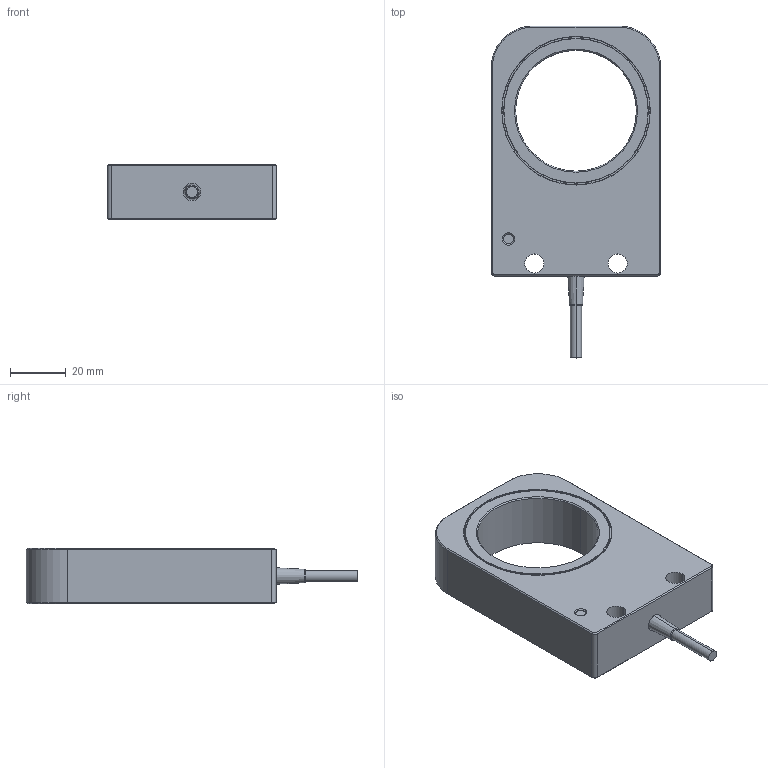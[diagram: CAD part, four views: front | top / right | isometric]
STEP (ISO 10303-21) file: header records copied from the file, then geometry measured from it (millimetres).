
FILE_DESCRIPTION (( 'STEP AP203' ), '1' );
FILE_NAME ('TH43.STEP', '2016-06-30T08:09:49', ( '' ), ( '' ), 'SwSTEP 2.0', 'SolidWorks 2013', '' );
FILE_SCHEMA (( 'CONFIG_CONTROL_DESIGN' ));
Length unit declared in the file: millimetre
Products named in the file (1): TH43
Bounding box: 61 x 119.5 x 20 mm (x, y, z)
Volume: 76967.1 mm3; surface area: 17781.3 mm2
Topology: 2 solids, 2 shells, 86 faces, 182 edges, 112 vertices
Faces by surface type: cylinder 32, plane 30, cone 22, torus 2
Entity records: 2403 total; most frequent: DIRECTION 450, CARTESIAN_POINT 381, ORIENTED_EDGE 364, EDGE_CURVE 182, AXIS2_PLACEMENT_3D 181, VERTEX_POINT 112, EDGE_LOOP 104, CIRCLE 94
